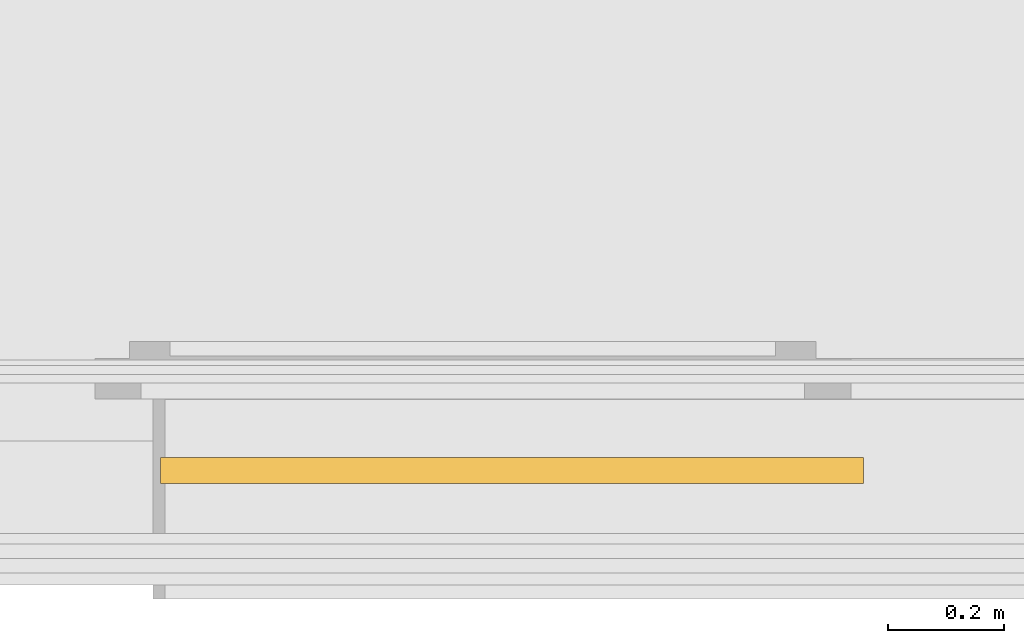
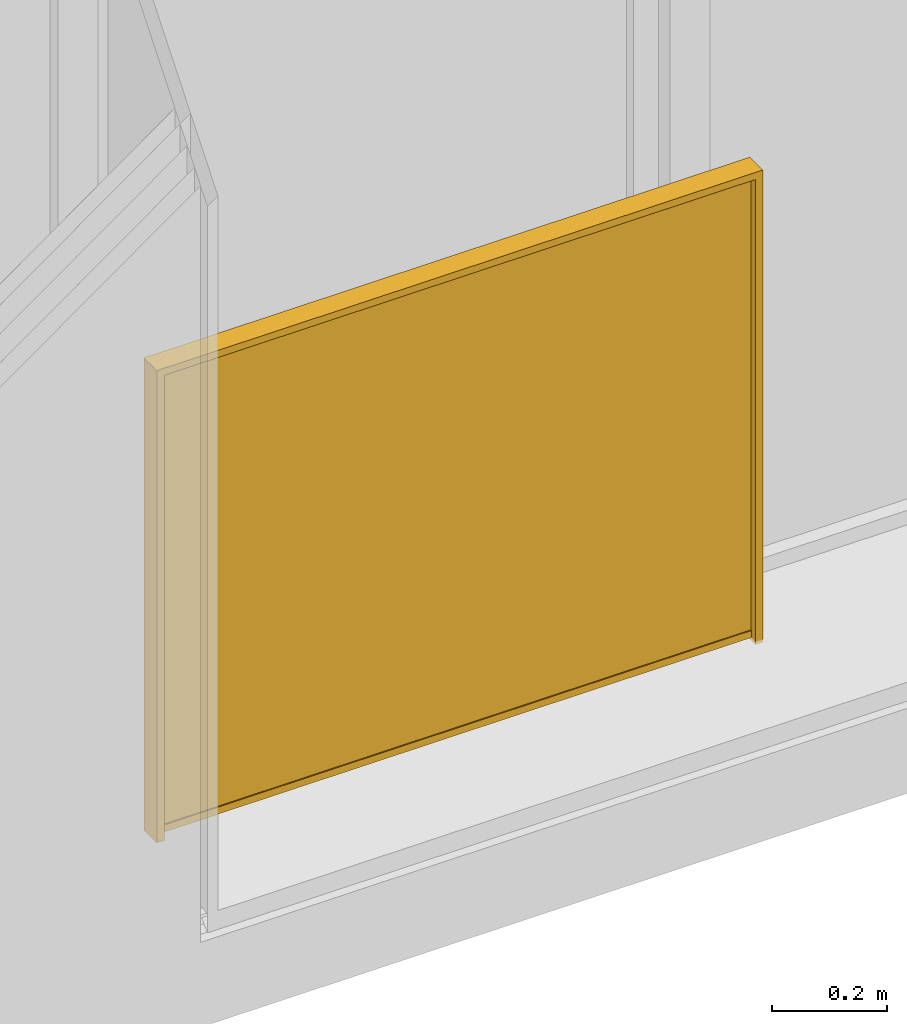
# One storey, part 29 of 34: 1 railing.
"""IFC4 building model written with IfcOpenShell, lengths in millimetres."""

from ifc_helpers import new_model, entity, si_unit, converted_unit, derived_unit, direction, frame, origin_with_axes, place, context, subcontext, project, spatial, polygons, material, constituent, constituent_set, type_object, element, save


model = new_model("IFC4")

# Units and contexts
model_context = context("Model", 3, precision=0.01, world=origin_with_axes(), true_north=direction((0.0, 1.0)))
body_context = subcontext(model_context, "Body", "Model", "MODEL_VIEW")
ifc_project = project(units=[si_unit("LENGTHUNIT", "METRE", prefix="MILLI"), si_unit("AREAUNIT", "SQUARE_METRE"), si_unit("VOLUMEUNIT", "CUBIC_METRE"), converted_unit("PLANEANGLEUNIT", "DEGREE", entity("IfcPlaneAngleMeasure", 0.0174532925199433), si_unit("PLANEANGLEUNIT", "RADIAN"), dimensions=[0, 0, 0, 0, 0, 0, 0]), converted_unit("TIMEUNIT", "Year", entity("IfcTimeMeasure", 31557600.0), si_unit("TIMEUNIT", "SECOND"), dimensions=[0, 0, 1, 0, 0, 0, 0]), si_unit("MASSUNIT", "GRAM", prefix="KILO"), si_unit("THERMODYNAMICTEMPERATUREUNIT", "DEGREE_CELSIUS"), si_unit("LUMINOUSINTENSITYUNIT", "LUMEN"), si_unit("ENERGYUNIT", "JOULE", prefix="MEGA"), derived_unit("THERMALCONDUCTANCEUNIT", [(si_unit("POWERUNIT", "WATT"), 1), (si_unit("LENGTHUNIT", "METRE"), -1), (si_unit("THERMODYNAMICTEMPERATUREUNIT", "KELVIN"), -1)]), derived_unit("SPECIFICHEATCAPACITYUNIT", [(si_unit("ENERGYUNIT", "JOULE"), 1), (si_unit("MASSUNIT", "GRAM", prefix="KILO"), -1), (si_unit("THERMODYNAMICTEMPERATUREUNIT", "KELVIN"), -1)]), derived_unit("MASSDENSITYUNIT", [(si_unit("MASSUNIT", "GRAM", prefix="KILO"), 1), (si_unit("VOLUMEUNIT", "CUBIC_METRE"), -1)])], contexts=[model_context])

# Site, building, storey
site_placement = place(None, origin_with_axes())
site = spatial("IfcSite", under=ifc_project, at=site_placement, Name="Gelände", CompositionType="ELEMENT")
building_placement = place(site_placement, origin_with_axes())
building = spatial("IfcBuilding", under=site, at=building_placement, Name="Gebäude", CompositionType="ELEMENT")
storey_placement = place(building_placement, frame((0.0, 0.0, 2900.0), z_axis=(0.0, 0.0, 1.0), x_axis=(1.0, 0.0, 0.0)))
storey = spatial("IfcBuildingStorey", under=building, at=storey_placement, Name="1.OG", CompositionType="ELEMENT", Elevation=2900.0)

# Railing
ifc_material_1 = material(Name="Chrom")
ifc_constituent_1 = constituent(ifc_material_1, Name="Chrom 1")
ifc_constituent_2 = constituent(ifc_material_1, Name="Chrom 2")
ifc_constituent_3 = constituent(ifc_material_1, Name="Chrom 3")
ifc_constituent_4 = constituent(ifc_material_1, Name="Chrom 4")
ifc_constituent_5 = constituent(ifc_material_1, Name="Chrom 5")
ifc_constituent_6 = constituent(ifc_material_1, Name="Chrom 6")
ifc_material_2 = material(Name="Glas")
ifc_constituent_7 = constituent(ifc_material_2, Name="Glas 1")
ifc_material_3 = material(Name="Lattenrost vertikal")
ifc_constituent_8 = constituent(ifc_material_3, Name="Lattenrost vertikal")
ifc_constituent_9 = constituent(ifc_material_2, Name="Glas 2")
ifc_constituent_set = constituent_set(constituents=[ifc_constituent_1, ifc_constituent_2, ifc_constituent_3, ifc_constituent_4, ifc_constituent_5, ifc_constituent_6, ifc_constituent_7, ifc_constituent_8, ifc_constituent_9])
railing_type = type_object("IfcRailingType", Name="Geländerart", PredefinedType="NOTDEFINED")
railing_placement = place(storey_placement, frame((30087.33077741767, 4716.157965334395, 599.9999999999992), z_axis=(0.0, 0.0, 1.0), x_axis=(-1.0, 0.0, 0.0)))
element("IfcRailing", 1, at=railing_placement, inside=storey, type_object=railing_type, material=ifc_constituent_set, Name="Geländer-001", PredefinedType="NOTDEFINED", context=body_context, shape_type="Tessellation", body=[
    polygons([(1098.346563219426, 22.49999999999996, 0.0), (1098.346563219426, 22.49999999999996, 985.0000000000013), (1098.346563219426, -22.49999999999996, 985.0000000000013), (1098.346563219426, -22.49999999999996, 0.0), (1083.346563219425, 22.49999999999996, 0.0), (1083.346563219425, 22.49999999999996, 985.0000000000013), (1083.346563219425, -22.49999999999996, 985.0000000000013), (1083.346563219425, -22.49999999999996, 0.0)], [[[1, 2, 3, 4]], [[5, 6, 2, 1]], [[2, 6, 7, 3]], [[4, 3, 7, 8]], [[1, 4, 8, 5]], [[8, 7, 6, 5]]], closed=True),
    polygons([(1090.846563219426, 22.49999999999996, 1000.000000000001), (1090.846563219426, 22.49999999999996, 985.0000000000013), (1083.346563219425, 22.49999999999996, 985.0000000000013), (1083.346563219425, 22.49999999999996, 1000.000000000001), (1090.846563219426, -22.49999999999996, 1000.000000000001), (1090.846563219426, -22.49999999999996, 985.0000000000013), (1083.346563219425, -22.49999999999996, 985.0000000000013), (1083.346563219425, -22.49999999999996, 1000.000000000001)], [[[1, 2, 3, 4]], [[1, 5, 6, 2]], [[2, 6, 7, 3]], [[4, 3, 7, 8]], [[5, 1, 4, 8]], [[6, 5, 8, 7]]], closed=True),
    polygons([(2297.5, 22.49999999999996, 0.0), (2297.5, 22.49999999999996, 985.0000000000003), (2297.5, -22.49999999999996, 985.0000000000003), (2297.5, -22.49999999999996, 0.0), (2282.499999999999, 22.49999999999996, 0.0), (2282.499999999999, 22.49999999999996, 985.0000000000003), (2282.499999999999, -22.49999999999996, 985.0000000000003), (2282.499999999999, -22.49999999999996, 0.0)], [[[1, 2, 3, 4]], [[5, 6, 2, 1]], [[2, 6, 7, 3]], [[4, 3, 7, 8]], [[1, 4, 8, 5]], [[8, 7, 6, 5]]], closed=True),
    polygons([(2289.999999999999, -22.49999999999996, 1000.0), (2289.999999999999, -22.49999999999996, 985.0000000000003), (2297.5, -22.49999999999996, 985.0000000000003), (2297.5, -22.49999999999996, 1000.0), (2289.999999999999, 22.49999999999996, 1000.0), (2289.999999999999, 22.49999999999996, 985.0000000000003), (2297.5, 22.49999999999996, 985.0000000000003), (2297.5, 22.49999999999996, 1000.0)], [[[1, 2, 3, 4]], [[1, 5, 6, 2]], [[2, 6, 7, 3]], [[4, 3, 7, 8]], [[5, 1, 4, 8]], [[6, 5, 8, 7]]], closed=True),
    polygons([(1090.846563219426, -22.49999999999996, 1000.000000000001), (1090.846563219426, -22.49999999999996, 985.0000000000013), (2289.999999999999, -22.49999999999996, 985.0000000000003), (2289.999999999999, -22.49999999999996, 1000.0), (1090.846563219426, 22.49999999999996, 1000.000000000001), (1090.846563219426, 22.49999999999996, 985.0000000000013), (2289.999999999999, 22.49999999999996, 985.0000000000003), (2289.999999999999, 22.49999999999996, 1000.0)], [[[1, 2, 3, 4]], [[1, 5, 6, 2]], [[2, 6, 7, 3]], [[4, 3, 7, 8]], [[5, 1, 4, 8]], [[6, 5, 8, 7]]], closed=True),
    polygons([(1095.846563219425, -4.999999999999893, 935.0000000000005), (1095.846563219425, 4.999999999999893, 935.0000000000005), (1095.846563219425, 4.999999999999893, 985.0000000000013), (1095.846563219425, -4.999999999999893, 985.0000000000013), (1085.846563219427, -4.999999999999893, 935.0000000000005), (1085.846563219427, 4.999999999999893, 935.0000000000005), (1085.846563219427, 4.999999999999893, 985.0000000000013), (1085.846563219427, -4.999999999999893, 985.0000000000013)], [[[1, 2, 3, 4]], [[1, 5, 6, 2]], [[2, 6, 7, 3]], [[4, 3, 7, 8]], [[5, 1, 4, 8]], [[6, 5, 8, 7]]], closed=True),
    polygons([(1695.42328160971, -4.999999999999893, 935.0000000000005), (1695.42328160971, 4.999999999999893, 935.0000000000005), (1695.42328160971, 4.999999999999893, 985.0000000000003), (1695.42328160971, -4.999999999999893, 985.0000000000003), (1685.423281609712, -4.999999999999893, 935.0000000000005), (1685.423281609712, 4.999999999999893, 935.0000000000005), (1685.423281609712, 4.999999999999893, 985.0000000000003), (1685.423281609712, -4.999999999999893, 985.0000000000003)], [[[1, 2, 3, 4]], [[1, 5, 6, 2]], [[2, 6, 7, 3]], [[4, 3, 7, 8]], [[5, 1, 4, 8]], [[6, 5, 8, 7]]], closed=True),
    polygons([(2294.999999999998, -4.999999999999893, 934.9999999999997), (2294.999999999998, 4.999999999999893, 934.9999999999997), (2294.999999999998, 4.999999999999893, 985.0000000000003), (2294.999999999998, -4.999999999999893, 985.0000000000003), (2285.0, -4.999999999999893, 934.9999999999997), (2285.0, 4.999999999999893, 934.9999999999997), (2285.0, 4.999999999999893, 985.0000000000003), (2285.0, -4.999999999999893, 985.0000000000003)], [[[1, 2, 3, 4]], [[1, 5, 6, 2]], [[2, 6, 7, 3]], [[4, 3, 7, 8]], [[5, 1, 4, 8]], [[6, 5, 8, 7]]], closed=True),
    polygons([(1090.846563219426, -9.999999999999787, 22.50000000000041), (1090.846563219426, -9.999999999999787, 7.500000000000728), (2289.999999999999, -9.999999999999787, 7.500000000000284), (2289.999999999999, -9.999999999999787, 22.49999999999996), (1090.846563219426, 9.999999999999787, 22.50000000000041), (1090.846563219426, 9.999999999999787, 7.500000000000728), (1090.846563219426, -3.250000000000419, 15.7500000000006), (1090.846563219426, -3.250000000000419, 14.25000000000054), (1090.846563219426, 3.250000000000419, 14.25000000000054), (1090.846563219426, 3.250000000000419, 15.7500000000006), (2289.999999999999, 9.999999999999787, 7.500000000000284), (2289.999999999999, 9.999999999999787, 22.49999999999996), (2289.999999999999, -3.250000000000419, 15.75000000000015), (2289.999999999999, 3.250000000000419, 15.75000000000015), (2289.999999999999, 3.250000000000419, 14.2500000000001), (2289.999999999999, -3.250000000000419, 14.2500000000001)], [[[1, 2, 3, 4]], [[1, 5, 6, 2], [7, 8, 9, 10]], [[2, 6, 11, 3]], [[4, 3, 11, 12], [13, 14, 15, 16]], [[5, 1, 4, 12]], [[6, 5, 12, 11]], [[8, 7, 13, 16]], [[9, 8, 16, 15]], [[10, 9, 15, 14]], [[7, 10, 14, 13]]], closed=True),
    polygons([(1685.423281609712, -7.500000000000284, 22.50000000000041), (1685.423281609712, -7.500000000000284, 985.0000000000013), (1095.846563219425, -7.500000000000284, 985.0000000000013), (1095.846563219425, -7.500000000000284, 22.50000000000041), (1685.423281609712, 7.500000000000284, 22.50000000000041), (1685.423281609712, 7.500000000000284, 985.0000000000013), (1095.846563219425, 7.500000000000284, 985.0000000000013), (1095.846563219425, 7.500000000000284, 22.50000000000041)], [[[1, 2, 3, 4]], [[1, 5, 6, 2]], [[2, 6, 7, 3]], [[7, 8, 4, 3]], [[8, 5, 1, 4]], [[7, 6, 5, 8]]], closed=True),
    polygons([(1695.42328160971, 7.500000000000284, 22.49999999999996), (1695.42328160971, 7.500000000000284, 985.0000000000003), (1695.42328160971, -7.500000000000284, 985.0000000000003), (1695.42328160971, -7.500000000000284, 22.49999999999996), (1685.423281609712, 7.500000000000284, 22.49999999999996), (1685.423281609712, 7.500000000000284, 985.0000000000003), (1685.423281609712, -7.500000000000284, 985.0000000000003), (1685.423281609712, -7.500000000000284, 22.49999999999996)], [[[1, 2, 3, 4]], [[5, 6, 2, 1]], [[2, 6, 7, 3]], [[4, 3, 7, 8]], [[1, 4, 8, 5]], [[8, 7, 6, 5]]], closed=True),
    polygons([(2285.0, -7.500000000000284, 22.49999999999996), (2285.0, -7.500000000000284, 985.0000000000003), (1695.423281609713, -7.500000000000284, 985.0000000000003), (1695.423281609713, -7.500000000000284, 22.49999999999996), (2285.0, 7.500000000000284, 22.49999999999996), (2285.0, 7.500000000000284, 985.0000000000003), (1695.423281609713, 7.500000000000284, 985.0000000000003), (1695.423281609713, 7.500000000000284, 22.49999999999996)], [[[1, 2, 3, 4]], [[1, 5, 6, 2]], [[2, 6, 7, 3]], [[7, 8, 4, 3]], [[8, 5, 1, 4]], [[7, 6, 5, 8]]], closed=True),
])

save(model, "model.ifc")
